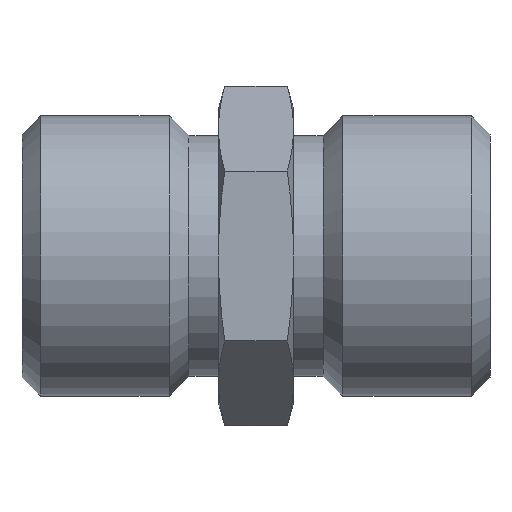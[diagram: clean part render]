
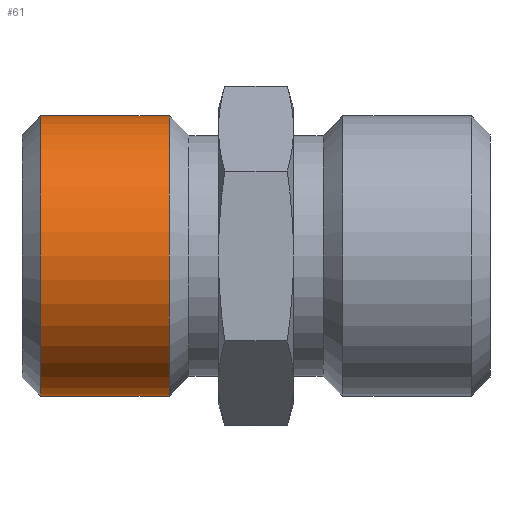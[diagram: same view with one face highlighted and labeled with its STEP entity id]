
A CAD part, left-side view. The second image highlights one B-rep face of the part: STEP entity #61.
In plain terms, the highlighted cylindrical face has radius 10.477 mm (diameter 20.955 mm), a full revolution.
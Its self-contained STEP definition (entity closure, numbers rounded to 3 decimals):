
#61=ADVANCED_FACE('',(#194,#196),#198,.T.);
#194=FACE_OUTER_BOUND('',#195,.T.);
#195=EDGE_LOOP('',(#984));
#196=FACE_OUTER_BOUND('',#197,.T.);
#197=EDGE_LOOP('',(#985));
#198=CYLINDRICAL_SURFACE('',#199,10.478);
#199=AXIS2_PLACEMENT_3D('',#200,#201,#202);
#200=CARTESIAN_POINT('',(0.,-17.5,0.));
#201=DIRECTION('',(0.,1.,0.));
#202=DIRECTION('',(-1.,0.,0.));
#984=ORIENTED_EDGE('',*,*,#1094,.F.);
#985=ORIENTED_EDGE('',*,*,#1096,.T.);
#1094=EDGE_CURVE('',#1157,#1157,#1158,.T.);
#1096=EDGE_CURVE('',#1161,#1161,#1162,.F.);
#1157=VERTEX_POINT('',#1271);
#1158=CIRCLE('',#1272,10.478);
#1161=VERTEX_POINT('',#1281);
#1162=CIRCLE('',#1282,10.478);
#1271=CARTESIAN_POINT('',(-10.478,16.1,0.));
#1272=AXIS2_PLACEMENT_3D('',#1273,#1274,#1275);
#1273=CARTESIAN_POINT('',(0.,16.1,0.));
#1274=DIRECTION('',(0.,1.,0.));
#1275=DIRECTION('',(-1.,0.,0.));
#1281=CARTESIAN_POINT('',(-10.478,6.5,0.));
#1282=AXIS2_PLACEMENT_3D('',#1283,#1284,#1285);
#1283=CARTESIAN_POINT('',(0.,6.5,0.));
#1284=DIRECTION('',(0.,-1.,0.));
#1285=DIRECTION('',(-1.,0.,0.));
